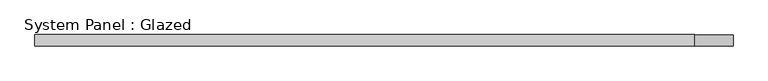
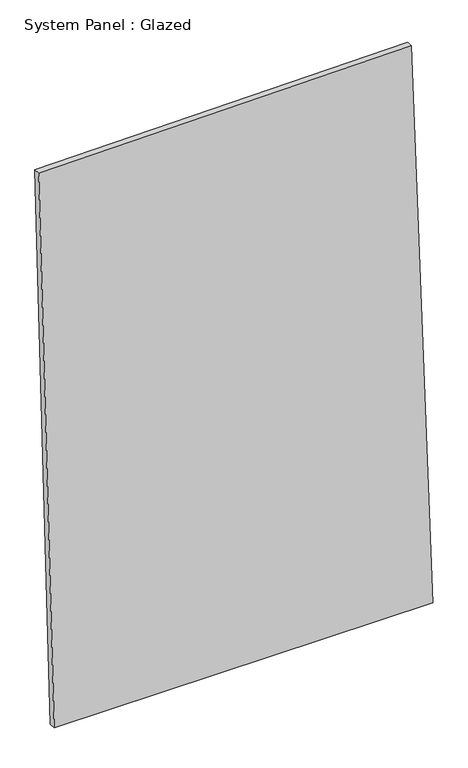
"""IFC4 building model written with IfcOpenShell, lengths in millimetres: plate geometry, System Panel : Glazed."""

from ifc_helpers import new_model, si_unit, frame, origin, place, context, project, spatial, polyline, outline, extrude, source, transform, mapped, element, save


def system_panel_glazed_98719c6a(model_context):
    return source(origin(), model_context, "Body", "SweptSolid", [
        extrude(outline(polyline([(0.0, -708.2827507), (0.0, 768.9387185), (2325.4628899, 684.6376526), (2308.2377695, -768.9387185), (0.0, -708.2827507)])), frame((0.0, -49.5, 0.0), z_axis=(0.0, 1.0, 0.0), x_axis=(0.0, 0.0, 1.0)), (0.0, 0.0, 1.0), 25.0),
    ])


if __name__ == "__main__":
    model = new_model("IFC4")
    model_context = context("Model", 3, world=origin())
    ifc_project = project(units=[si_unit("LENGTHUNIT", "METRE", prefix="MILLI")], contexts=[model_context])
    site = spatial("IfcSite", under=ifc_project)
    building = spatial("IfcBuilding", under=site)
    placement = place(None, origin())
    system_panel_glazed_shape = system_panel_glazed_98719c6a(model_context)
    element("IfcPlate", 1, ObjectType="System Panel : Glazed", at=placement, inside=building, context=model_context, shape_type="MappedRepresentation", body=[
        mapped(system_panel_glazed_shape, transform((0.0, 0.0, 0.0), x_axis=(1.0, 0.0, 0.0), y_axis=(0.0, 1.0, 0.0), z_axis=(0.0, 0.0, 1.0))),
    ])
    save(model, "model.ifc")
